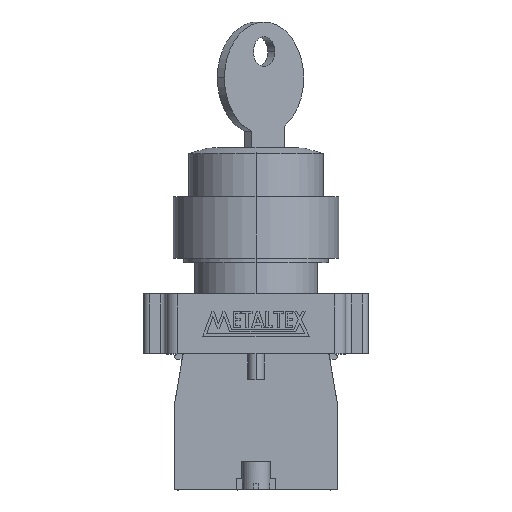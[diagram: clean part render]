
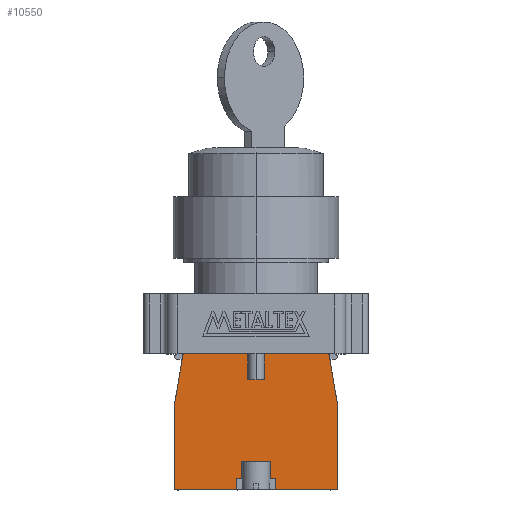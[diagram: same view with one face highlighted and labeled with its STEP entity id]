
A CAD part, top view. The second image highlights one B-rep face of the part: STEP entity #10550.
In plain terms, the highlighted planar face has unit normal (0, 0, 1).
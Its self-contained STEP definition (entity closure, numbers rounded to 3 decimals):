
#834 = VECTOR ( 'NONE', #8774, 1000. ) ;
#835 = VECTOR ( 'NONE', #8786, 1000. ) ;
#840 = VECTOR ( 'NONE', #8771, 1000. ) ;
#846 = VECTOR ( 'NONE', #8795, 1000. ) ;
#847 = VECTOR ( 'NONE', #8777, 1000. ) ;
#852 = VECTOR ( 'NONE', #8780, 1000. ) ;
#858 = VECTOR ( 'NONE', #8792, 1000. ) ;
#862 = VECTOR ( 'NONE', #8783, 1000. ) ;
#866 = VECTOR ( 'NONE', #8789, 1000. ) ;
#943 = VECTOR ( 'NONE', #8759, 1000. ) ;
#2029 = VERTEX_POINT ( 'NONE', #2505 ) ;
#2030 = VERTEX_POINT ( 'NONE', #2506 ) ;
#2031 = VERTEX_POINT ( 'NONE', #2507 ) ;
#2032 = VERTEX_POINT ( 'NONE', #2508 ) ;
#2135 = VERTEX_POINT ( 'NONE', #2611 ) ;
#2141 = VERTEX_POINT ( 'NONE', #2617 ) ;
#2150 = VERTEX_POINT ( 'NONE', #2626 ) ;
#2153 = VERTEX_POINT ( 'NONE', #2629 ) ;
#2157 = VERTEX_POINT ( 'NONE', #2633 ) ;
#2158 = VERTEX_POINT ( 'NONE', #2634 ) ;
#2161 = VERTEX_POINT ( 'NONE', #2637 ) ;
#2163 = VERTEX_POINT ( 'NONE', #2639 ) ;
#2205 = VERTEX_POINT ( 'NONE', #2652 ) ;
#2271 = VERTEX_POINT ( 'NONE', #2715 ) ;
#2274 = VERTEX_POINT ( 'NONE', #2718 ) ;
#2367 = VERTEX_POINT ( 'NONE', #2807 ) ;
#2371 = VECTOR ( 'NONE', #8600, 1000. ) ;
#2373 = VERTEX_POINT ( 'NONE', #2812 ) ;
#2392 = VERTEX_POINT ( 'NONE', #2831 ) ;
#2505 = CARTESIAN_POINT ( 'NONE',  ( 3.5, 2., 7.45 ) ) ;
#2506 = CARTESIAN_POINT ( 'NONE',  ( 2.6, 2., 7.45 ) ) ;
#2507 = CARTESIAN_POINT ( 'NONE',  ( -2.6, 2., 7.45 ) ) ;
#2508 = CARTESIAN_POINT ( 'NONE',  ( -3.5, 2., 7.45 ) ) ;
#2611 = CARTESIAN_POINT ( 'NONE',  ( 2.6, 5., 7.45 ) ) ;
#2617 = CARTESIAN_POINT ( 'NONE',  ( -1.5, 19.6, 7.45 ) ) ;
#2626 = CARTESIAN_POINT ( 'NONE',  ( -3.5, 0., 7.45 ) ) ;
#2629 = CARTESIAN_POINT ( 'NONE',  ( 14.5, 0., 7.45 ) ) ;
#2633 = CARTESIAN_POINT ( 'NONE',  ( -1.5, 24.2, 7.45 ) ) ;
#2634 = CARTESIAN_POINT ( 'NONE',  ( -13., 24.2, 7.45 ) ) ;
#2637 = CARTESIAN_POINT ( 'NONE',  ( -14.5, 0., 7.45 ) ) ;
#2639 = CARTESIAN_POINT ( 'NONE',  ( 1.5, 24.2, 7.45 ) ) ;
#2652 = CARTESIAN_POINT ( 'NONE',  ( 3.5, 0., 7.45 ) ) ;
#2715 = CARTESIAN_POINT ( 'NONE',  ( 14.5, 15.5, 7.45 ) ) ;
#2718 = CARTESIAN_POINT ( 'NONE',  ( 13., 24.2, 7.45 ) ) ;
#2807 = CARTESIAN_POINT ( 'NONE',  ( 1.5, 19.6, 7.45 ) ) ;
#2812 = CARTESIAN_POINT ( 'NONE',  ( -14.5, 15.5, 7.45 ) ) ;
#2831 = CARTESIAN_POINT ( 'NONE',  ( -2.6, 5., 7.45 ) ) ;
#3724 = VECTOR ( 'NONE', #8585, 1000. ) ;
#3900 = VECTOR ( 'NONE', #8567, 1000. ) ;
#5926 = EDGE_LOOP ( 'NONE', ( #11655, #11653, #11656, #11654, #11652, #11651, #11649, #11650, #11648, #11647, #11644, #11645, #11643, #11641, #11642, #11640, #11639, #11636 ) ) ;
#7773 = VECTOR ( 'NONE', #8465, 1000. ) ;
#7778 = VECTOR ( 'NONE', #8453, 1000. ) ;
#7791 = VECTOR ( 'NONE', #8417, 1000. ) ;
#7794 = VECTOR ( 'NONE', #8408, 1000. ) ;
#7828 = VECTOR ( 'NONE', #7944, 1000. ) ;
#7942 = LINE ( 'NONE', #7943, #7828 ) ;
#7943 = CARTESIAN_POINT ( 'NONE',  ( 14.5, 15.5, 7.45 ) ) ;
#7944 = DIRECTION ( 'NONE',  ( -0.17, 0.985, 0. ) ) ;
#8406 = LINE ( 'NONE', #8407, #7794 ) ;
#8407 = CARTESIAN_POINT ( 'NONE',  ( -14.5, 0., 7.45 ) ) ;
#8408 = DIRECTION ( 'NONE',  ( 1., 0., 0. ) ) ;
#8415 = LINE ( 'NONE', #8416, #7791 ) ;
#8416 = CARTESIAN_POINT ( 'NONE',  ( -14.5, 0., 7.45 ) ) ;
#8417 = DIRECTION ( 'NONE',  ( 1., 0., 0. ) ) ;
#8451 = LINE ( 'NONE', #8452, #7778 ) ;
#8452 = CARTESIAN_POINT ( 'NONE',  ( 13., 24.2, 7.45 ) ) ;
#8453 = DIRECTION ( 'NONE',  ( -1., 0., 0. ) ) ;
#8463 = LINE ( 'NONE', #8464, #7773 ) ;
#8464 = CARTESIAN_POINT ( 'NONE',  ( 13., 24.2, 7.45 ) ) ;
#8465 = DIRECTION ( 'NONE',  ( -1., 0., 0. ) ) ;
#8565 = LINE ( 'NONE', #8566, #3900 ) ;
#8566 = CARTESIAN_POINT ( 'NONE',  ( 0., 5., 7.45 ) ) ;
#8567 = DIRECTION ( 'NONE',  ( -1., 0., 0. ) ) ;
#8583 = LINE ( 'NONE', #8584, #3724 ) ;
#8584 = CARTESIAN_POINT ( 'NONE',  ( 0., 19.6, 7.45 ) ) ;
#8585 = DIRECTION ( 'NONE',  ( -1., 0., 0. ) ) ;
#8598 = LINE ( 'NONE', #8599, #2371 ) ;
#8599 = CARTESIAN_POINT ( 'NONE',  ( -14.5, 15.5, 7.45 ) ) ;
#8600 = DIRECTION ( 'NONE',  ( 0., -1., 0. ) ) ;
#8757 = LINE ( 'NONE', #8758, #943 ) ;
#8758 = CARTESIAN_POINT ( 'NONE',  ( 14.5, 0., 7.45 ) ) ;
#8759 = DIRECTION ( 'NONE',  ( 0., 1., 0. ) ) ;
#8769 = LINE ( 'NONE', #8770, #840 ) ;
#8770 = CARTESIAN_POINT ( 'NONE',  ( -13., 24.2, 7.45 ) ) ;
#8771 = DIRECTION ( 'NONE',  ( -0.17, -0.985, 0. ) ) ;
#8772 = LINE ( 'NONE', #8773, #834 ) ;
#8773 = CARTESIAN_POINT ( 'NONE',  ( -1.5, 19.6, 7.45 ) ) ;
#8774 = DIRECTION ( 'NONE',  ( 0., 1., 0. ) ) ;
#8775 = LINE ( 'NONE', #8776, #847 ) ;
#8776 = CARTESIAN_POINT ( 'NONE',  ( -3.5, 0., 7.45 ) ) ;
#8777 = DIRECTION ( 'NONE',  ( 0., 1., 0. ) ) ;
#8778 = LINE ( 'NONE', #8779, #852 ) ;
#8779 = CARTESIAN_POINT ( 'NONE',  ( 0., 2., 7.45 ) ) ;
#8780 = DIRECTION ( 'NONE',  ( 1., 0., 0. ) ) ;
#8781 = LINE ( 'NONE', #8782, #862 ) ;
#8782 = CARTESIAN_POINT ( 'NONE',  ( -2.6, 0., 7.45 ) ) ;
#8783 = DIRECTION ( 'NONE',  ( 0., 1., 0. ) ) ;
#8784 = LINE ( 'NONE', #8785, #835 ) ;
#8785 = CARTESIAN_POINT ( 'NONE',  ( 2.6, 0., 7.45 ) ) ;
#8786 = DIRECTION ( 'NONE',  ( 0., 1., 0. ) ) ;
#8787 = LINE ( 'NONE', #8788, #866 ) ;
#8788 = CARTESIAN_POINT ( 'NONE',  ( 0., 2., 7.45 ) ) ;
#8789 = DIRECTION ( 'NONE',  ( 1., 0., 0. ) ) ;
#8790 = LINE ( 'NONE', #8791, #858 ) ;
#8791 = CARTESIAN_POINT ( 'NONE',  ( 3.5, 0., 7.45 ) ) ;
#8792 = DIRECTION ( 'NONE',  ( 0., 1., 0. ) ) ;
#8793 = LINE ( 'NONE', #8794, #846 ) ;
#8794 = CARTESIAN_POINT ( 'NONE',  ( 1.5, 19.6, 7.45 ) ) ;
#8795 = DIRECTION ( 'NONE',  ( 0., 1., 0. ) ) ;
#9815 = PLANE ( 'NONE',  #10367 ) ;
#9816 = CARTESIAN_POINT ( 'NONE',  ( 0., 0., 7.45 ) ) ;
#9817 = DIRECTION ( 'NONE',  ( 0., 0., 1. ) ) ;
#9818 = DIRECTION ( 'NONE',  ( 1., 0., 0. ) ) ;
#10367 = AXIS2_PLACEMENT_3D ( 'NONE', #9816, #9817, #9818 ) ;
#10370 = FACE_OUTER_BOUND ( 'NONE', #5926, .T. ) ;
#10550 = ADVANCED_FACE ( 'NONE', ( #10370 ), #9815, .T. ) ;
#10701 = EDGE_CURVE ( 'NONE', #2271, #2274, #7942, .T. ) ;
#10757 = EDGE_CURVE ( 'NONE', #2205, #2153, #8406, .T. ) ;
#10760 = EDGE_CURVE ( 'NONE', #2161, #2150, #8415, .T. ) ;
#10772 = EDGE_CURVE ( 'NONE', #2157, #2158, #8451, .T. ) ;
#10776 = EDGE_CURVE ( 'NONE', #2274, #2163, #8463, .T. ) ;
#10810 = EDGE_CURVE ( 'NONE', #2135, #2392, #8565, .T. ) ;
#10816 = EDGE_CURVE ( 'NONE', #2367, #2141, #8583, .T. ) ;
#10821 = EDGE_CURVE ( 'NONE', #2373, #2161, #8598, .T. ) ;
#10874 = EDGE_CURVE ( 'NONE', #2153, #2271, #8757, .T. ) ;
#10878 = EDGE_CURVE ( 'NONE', #2158, #2373, #8769, .T. ) ;
#10879 = EDGE_CURVE ( 'NONE', #2141, #2157, #8772, .T. ) ;
#10880 = EDGE_CURVE ( 'NONE', #2150, #2032, #8775, .T. ) ;
#10881 = EDGE_CURVE ( 'NONE', #2032, #2031, #8778, .T. ) ;
#10882 = EDGE_CURVE ( 'NONE', #2031, #2392, #8781, .T. ) ;
#10883 = EDGE_CURVE ( 'NONE', #2030, #2135, #8784, .T. ) ;
#10884 = EDGE_CURVE ( 'NONE', #2030, #2029, #8787, .T. ) ;
#10885 = EDGE_CURVE ( 'NONE', #2205, #2029, #8790, .T. ) ;
#10886 = EDGE_CURVE ( 'NONE', #2367, #2163, #8793, .T. ) ;
#11636 = ORIENTED_EDGE ( 'NONE', *, *, #10816, .T. ) ;
#11639 = ORIENTED_EDGE ( 'NONE', *, *, #10886, .F. ) ;
#11640 = ORIENTED_EDGE ( 'NONE', *, *, #10776, .T. ) ;
#11641 = ORIENTED_EDGE ( 'NONE', *, *, #10874, .T. ) ;
#11642 = ORIENTED_EDGE ( 'NONE', *, *, #10701, .T. ) ;
#11643 = ORIENTED_EDGE ( 'NONE', *, *, #10757, .T. ) ;
#11644 = ORIENTED_EDGE ( 'NONE', *, *, #10884, .T. ) ;
#11645 = ORIENTED_EDGE ( 'NONE', *, *, #10885, .F. ) ;
#11647 = ORIENTED_EDGE ( 'NONE', *, *, #10883, .F. ) ;
#11648 = ORIENTED_EDGE ( 'NONE', *, *, #10810, .F. ) ;
#11649 = ORIENTED_EDGE ( 'NONE', *, *, #10881, .T. ) ;
#11650 = ORIENTED_EDGE ( 'NONE', *, *, #10882, .T. ) ;
#11651 = ORIENTED_EDGE ( 'NONE', *, *, #10880, .T. ) ;
#11652 = ORIENTED_EDGE ( 'NONE', *, *, #10760, .T. ) ;
#11653 = ORIENTED_EDGE ( 'NONE', *, *, #10772, .T. ) ;
#11654 = ORIENTED_EDGE ( 'NONE', *, *, #10821, .T. ) ;
#11655 = ORIENTED_EDGE ( 'NONE', *, *, #10879, .T. ) ;
#11656 = ORIENTED_EDGE ( 'NONE', *, *, #10878, .T. ) ;
